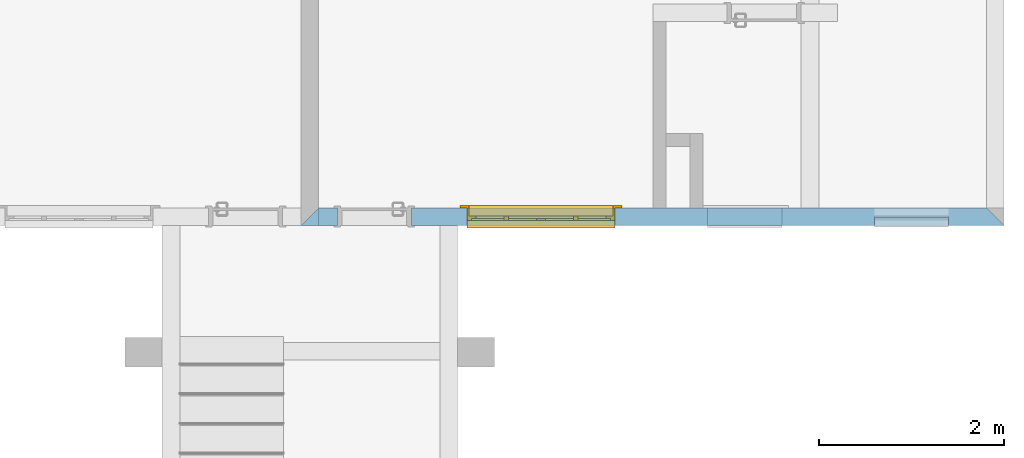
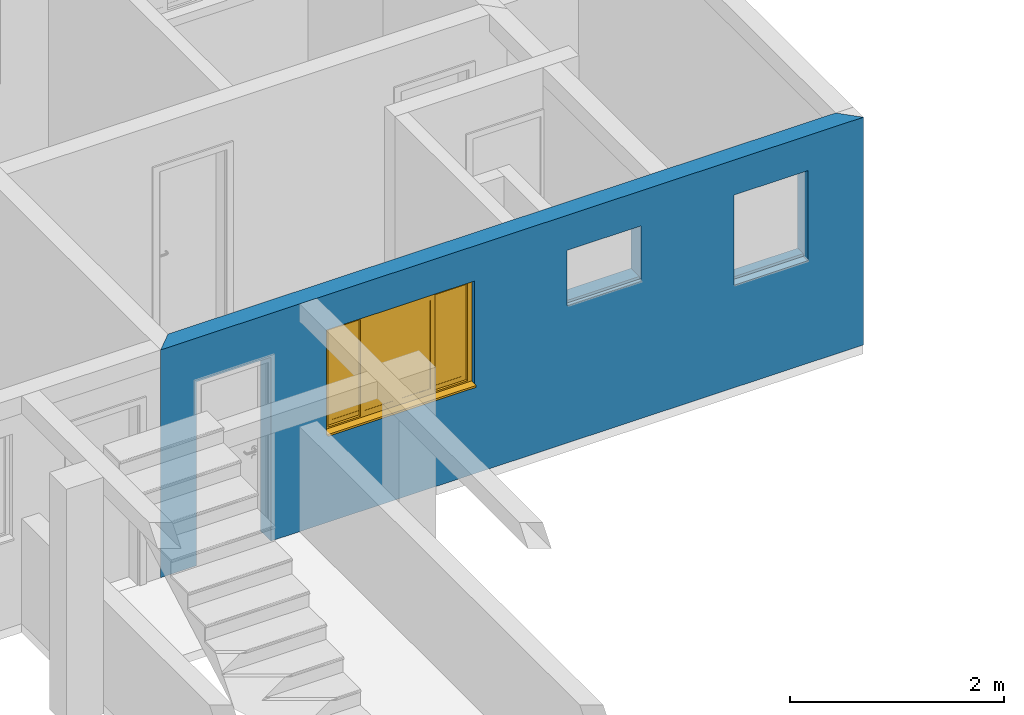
# One storey, part 29 of 47: 1 wall, 1 window, 4 openings.
"""IFC2X3 building model written with IfcOpenShell, lengths in millimetres."""

from ifc_helpers import new_model, entity, si_unit, converted_unit, derived_unit, money_unit, direction, frame, origin_with_axes, origin_2d_with_axis, place, context, subcontext, project, spatial, polyline, rectangle, outline, extrude, open_shell, faceted_brep, surface_model, source, transform, mapped, material, layer, layer_set, layer_usage, type_object, element, fill, save


model = new_model("IFC2X3")

# Units and contexts
model_context = context("Model", 3, precision=0.01, world=origin_with_axes(), true_north=direction((0.0, 1.0)))
body_context = subcontext(model_context, "Body", "Model", "MODEL_VIEW")
ifc_project = project(units=[si_unit("LENGTHUNIT", "METRE", prefix="MILLI"), si_unit("AREAUNIT", "SQUARE_METRE"), si_unit("VOLUMEUNIT", "CUBIC_METRE"), converted_unit("PLANEANGLEUNIT", "DEGREE", entity("IfcPlaneAngleMeasure", 0.0174532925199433), si_unit("PLANEANGLEUNIT", "RADIAN"), dimensions=[0, 0, 0, 0, 0, 0, 0]), money_unit("USD"), converted_unit("TIMEUNIT", "Year", entity("IfcTimeMeasure", 31557600.0), si_unit("TIMEUNIT", "SECOND"), dimensions=[0, 0, 1, 0, 0, 0, 0]), si_unit("MASSUNIT", "GRAM", prefix="KILO"), si_unit("THERMODYNAMICTEMPERATUREUNIT", "DEGREE_CELSIUS"), si_unit("LUMINOUSINTENSITYUNIT", "LUMEN"), si_unit("ENERGYUNIT", "JOULE", prefix="MEGA"), derived_unit("THERMALCONDUCTANCEUNIT", [(si_unit("POWERUNIT", "WATT"), 1), (si_unit("LENGTHUNIT", "METRE"), -1), (si_unit("THERMODYNAMICTEMPERATUREUNIT", "KELVIN"), -1)]), derived_unit("SPECIFICHEATCAPACITYUNIT", [(si_unit("ENERGYUNIT", "JOULE"), 1), (si_unit("MASSUNIT", "GRAM", prefix="KILO"), -1), (si_unit("THERMODYNAMICTEMPERATUREUNIT", "KELVIN"), -1)]), derived_unit("MASSDENSITYUNIT", [(si_unit("MASSUNIT", "GRAM", prefix="KILO"), 1), (si_unit("VOLUMEUNIT", "CUBIC_METRE"), -1)])], contexts=[model_context])

# Site, building, storey
site_placement = place(None, origin_with_axes())
site = spatial("IfcSite", under=ifc_project, at=site_placement, Name="Local", CompositionType="ELEMENT")
building_placement = place(site_placement, origin_with_axes())
building = spatial("IfcBuilding", under=site, at=building_placement, Name="Construção", CompositionType="ELEMENT")
storey_placement = place(building_placement, origin_with_axes())
storey = spatial("IfcBuildingStorey", under=building, at=storey_placement, Name="Pavimento Tipo", CompositionType="ELEMENT", Elevation=0.0)

# Wall, openings, window
ifc_material = material(Name="Concreto - Estrutural")
ifc_layer = layer(ifc_material, 190.0, ventilated="UNKNOWN")
ifc_layer_set = layer_set([ifc_layer], Name="Concreto - Estrutural 190")
ifc_layer_usage = layer_usage(ifc_layer_set, "AXIS2", "NEGATIVE", 190.0)
wall_type = type_object("IfcWallType", Name="Concreto - Estrutural 190", PredefinedType="NOTDEFINED")
wall_placement = place(storey_placement, frame((1042.56699750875, 12396.98141771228, 0.0), z_axis=(0.0, 0.0, 1.0), x_axis=(1.0, 0.0, 0.0)))
wall = element("IfcWallStandardCase", 1, at=wall_placement, inside=storey, type_object=wall_type, material=ifc_layer_usage, Name="Apartamento 1 - Parede-003", context=body_context, shape_type="SweptSolid", body=[
    extrude(outline(polyline([(-190.0000000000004, 0.0), (7399.999999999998, 0.0), (7209.999999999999, 189.9999999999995), (0.0, 189.9999999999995), (-190.0000000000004, 0.0)])), origin_with_axes(), (0.0, 0.0, 1.0), 2600.0),
])
opening_1_placement = place(wall_placement, frame((2400.0, 0.0, 1000.0), z_axis=(0.0, 0.0, 1.0), x_axis=(1.0, 0.0, 0.0)))
opening_1 = element("IfcOpeningElement", 2, at=opening_1_placement, cuts=wall, Name="Apartamento 1 - J01", context=body_context, shape_type="SweptSolid", body=[
    extrude(rectangle(XDim=1599.999999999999, YDim=1200.0, at=origin_2d_with_axis()), frame((0.0, 50.00000000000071, 600.0000000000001), z_axis=(0.0, 1.0, 0.0), x_axis=(1.0, 0.0, 0.0)), (0.0, 0.0, 1.0), 330.0),
    extrude(rectangle(XDim=1599.999999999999, YDim=1200.0, at=origin_2d_with_axis()), frame((0.0, 50.00000000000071, 600.0000000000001), z_axis=(0.0, -1.0, 0.0), x_axis=(1.0, 0.0, 0.0)), (0.0, 0.0, 1.0), 240.0),
    extrude(rectangle(XDim=1750.0, YDim=1350.0, at=origin_2d_with_axis()), frame((0.0, 190.0000000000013, 600.0000000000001), z_axis=(0.0, 1.0, 0.0), x_axis=(1.0, 0.0, 0.0)), (0.0, 0.0, 1.0), 240.0),
])
opening_2_placement = place(wall_placement, frame((4600.0, 0.0, 1600.0), z_axis=(0.0, 0.0, 1.0), x_axis=(1.0, 0.0, 0.0)))
element("IfcOpeningElement", 3, at=opening_2_placement, cuts=wall, Name="Apartamento 1 - J02", context=body_context, shape_type="SweptSolid", body=[
    extrude(rectangle(XDim=800.0000000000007, YDim=600.0000000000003, at=origin_2d_with_axis()), frame((0.0, 189.9999999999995, 300.0000000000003), z_axis=(0.0, -1.0, 0.0), x_axis=(-1.0, 0.0, 0.0)), (0.0, 0.0, 1.0), 570.0000000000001),
    extrude(rectangle(XDim=800.0000000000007, YDim=30.00000000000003, at=origin_2d_with_axis()), frame((0.0, 35.00000000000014, -15.00000000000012), z_axis=(0.0, 1.0, 0.0), x_axis=(-1.0, 0.0, 0.0)), (0.0, 0.0, -1.0), 225.0),
    extrude(rectangle(XDim=949.9999999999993, YDim=750.0000000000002, at=origin_2d_with_axis()), frame((0.0, 189.9999999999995, 300.0000000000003), z_axis=(0.0, -1.0, 0.0), x_axis=(-1.0, 0.0, 0.0)), (0.0, 0.0, -1.0), 190.0),
])
opening_3_placement = place(wall_placement, frame((6399.999999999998, 0.0, 1200.0), z_axis=(0.0, 0.0, 1.0), x_axis=(1.0, 0.0, 0.0)))
element("IfcOpeningElement", 4, at=opening_3_placement, cuts=wall, Name="Apartamento 1 - J03", context=body_context, shape_type="SweptSolid", body=[
    extrude(rectangle(XDim=800.0000000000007, YDim=1000.0, at=origin_2d_with_axis()), frame((0.0, 50.00000000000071, 500.0), z_axis=(0.0, -1.0, 0.0), x_axis=(-1.0, 0.0, 0.0)), (0.0, 0.0, -1.0), 330.0),
    extrude(rectangle(XDim=800.0000000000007, YDim=1000.0, at=origin_2d_with_axis()), frame((0.0, 50.00000000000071, 500.0), z_axis=(0.0, 1.0, 0.0), x_axis=(-1.0, 0.0, 0.0)), (0.0, 0.0, -1.0), 240.0),
    extrude(rectangle(XDim=800.0000000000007, YDim=30.00000000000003, at=origin_2d_with_axis()), frame((0.0, 85.00000000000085, -15.00000000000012), z_axis=(0.0, 1.0, 0.0), x_axis=(-1.0, 0.0, 0.0)), (0.0, 0.0, -1.0), 225.0),
])
opening_4_placement = place(wall_placement, frame((600.0000000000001, 0.0, 0.0), z_axis=(0.0, 0.0, 1.0), x_axis=(1.0, 0.0, 0.0)))
element("IfcOpeningElement", 5, at=opening_4_placement, cuts=wall, Name="Apartamento 1 - P01", context=body_context, shape_type="SweptSolid", body=[
    extrude(rectangle(XDim=799.9999999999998, YDim=2100.0, at=origin_2d_with_axis()), frame((0.0, 189.9999999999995, 1050.0), z_axis=(0.0, 1.0, 0.0), x_axis=(-1.0, 0.0, 0.0)), (0.0, 0.0, -1.0), 570.0000000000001),
    extrude(rectangle(XDim=870.0000000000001, YDim=2135.0, at=origin_2d_with_axis()), frame((0.0, 189.9999999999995, 1067.5), z_axis=(0.0, 1.0, 0.0), x_axis=(-1.0, 0.0, 0.0)), (0.0, 0.0, 1.0), 190.0),
    extrude(rectangle(XDim=870.0000000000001, YDim=2135.0, at=origin_2d_with_axis()), frame((0.0, 0.0, 1067.5), z_axis=(0.0, -1.0, 0.0), x_axis=(-1.0, 0.0, 0.0)), (0.0, 0.0, 1.0), 190.0),
])
window_style = type_object("IfcWindowStyle", Name="Janela de Correr 4-Folhas 27", ConstructionType="NOTDEFINED", OperationType="USERDEFINED", ParameterTakesPrecedence=False, Sizeable=False)
shared_shape = source(origin_with_axes(), body_context, "Body", "SurfaceModel", [
    faceted_brep([(800.0, 0.0, 5.0), (800.0, 50.0, 5.000000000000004), (800.0, 50.0, 27.37961103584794), (800.0, 0.0, 30.0), (-800.0, 0.0, 5.0), (-800.0, 50.0, 5.000000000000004), (-800.0, 80.0, 5.000000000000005), (800.0, 80.0, 5.000000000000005), (800.0, 80.0, 25.8073776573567), (-800.0, 80.0, 25.8073776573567), (-800.0, 50.0, 27.37961103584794), (-800.0, 0.0, 30.0)], [[[0, 1, 2, 3]], [[0, 4, 5, 6, 7, 1]], [[1, 7, 8, 2]], [[3, 2, 8, 9, 10, 11]], [[4, 0, 3, 11]], [[5, 4, 11, 10]], [[6, 5, 10, 9]], [[7, 6, 9, 8]]]),
    faceted_brep([(800.0, 0.0, 0.0), (800.0, 50.0, 0.0), (800.0, 50.0, 5.0), (800.0, 0.0, 5.0), (-800.0, 0.0, 0.0), (-800.0, 50.0, 0.0), (-800.0, 50.0, 5.0), (-800.0, 0.0, 5.0)], [[[0, 1, 2, 3]], [[0, 4, 5, 1]], [[1, 5, 6, 2]], [[3, 2, 6, 7]], [[4, 0, 3, 7]], [[5, 4, 7, 6]]]),
    faceted_brep([(800.0, -50.0, 0.0), (800.0, -140.0, 0.0), (-800.0, -140.0, 0.0), (-800.0, -50.0, 0.0), (800.0, -50.00000000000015, 1200.0), (800.0, -140.0000000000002, 1200.0), (-800.0, -140.0000000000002, 1200.0), (775.0, -140.0, 24.99999999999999), (-775.0, -140.0, 24.99999999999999), (-775.0, -140.0000000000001, 1175.0), (775.0, -140.0000000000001, 1175.0), (-800.0, -50.00000000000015, 1200.0), (775.0, -50.0, 24.99999999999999), (775.0, -50.00000000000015, 1175.0), (-775.0, -50.00000000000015, 1175.0), (-775.0, -50.0, 24.99999999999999)], [[[0, 1, 2, 3]], [[4, 5, 1, 0]], [[1, 5, 6, 2], [7, 8, 9, 10]], [[3, 2, 6, 11]], [[0, 3, 11, 4], [12, 13, 14, 15]], [[11, 6, 5, 4]], [[15, 8, 7, 12]], [[14, 9, 8, 15]], [[13, 10, 9, 14]], [[12, 7, 10, 13]]]),
    faceted_brep([(875.0, -165.0, -75.00000000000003), (775.0, -165.0, 24.99999999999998), (775.0, -140.0, 24.99999999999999), (875.0, -140.0, -75.00000000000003), (875.0, -165.0000000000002, 1275.0), (775.0, -165.0000000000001, 1175.0), (775.0, -140.0000000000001, 1175.0), (875.0, -140.0000000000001, 1275.0)], [[[0, 1, 2, 3]], [[0, 4, 5, 1]], [[1, 5, 6, 2]], [[3, 2, 6, 7]], [[4, 0, 3, 7]], [[5, 4, 7, 6]]]),
    faceted_brep([(-875.0, -165.0000000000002, 1275.0), (-775.0, -165.0000000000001, 1175.0), (-775.0, -140.0000000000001, 1175.0), (-875.0, -140.0000000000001, 1275.0), (-875.0, -165.0, -75.00000000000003), (-775.0, -165.0, 24.99999999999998), (-775.0, -140.0, 24.99999999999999), (-875.0, -140.0, -75.00000000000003)], [[[0, 1, 2, 3]], [[0, 4, 5, 1]], [[1, 5, 6, 2]], [[3, 2, 6, 7]], [[4, 0, 3, 7]], [[5, 4, 7, 6]]]),
    faceted_brep([(-875.0, -165.0, -75.00000000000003), (-775.0, -165.0, 24.99999999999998), (-775.0, -140.0, 24.99999999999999), (-875.0, -140.0, -75.00000000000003), (875.0, -165.0, -75.00000000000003), (775.0, -165.0, 24.99999999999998), (775.0, -140.0, 24.99999999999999), (875.0, -140.0, -75.00000000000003)], [[[0, 1, 2, 3]], [[0, 4, 5, 1]], [[1, 5, 6, 2]], [[3, 2, 6, 7]], [[4, 0, 3, 7]], [[5, 4, 7, 6]]]),
    faceted_brep([(875.0, -165.0000000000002, 1275.0), (775.0, -165.0000000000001, 1175.0), (775.0, -140.0000000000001, 1175.0), (875.0, -140.0000000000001, 1275.0), (-875.0, -165.0000000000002, 1275.0), (-775.0, -165.0000000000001, 1175.0), (-775.0, -140.0000000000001, 1175.0), (-875.0, -140.0000000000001, 1275.0)], [[[0, 1, 2, 3]], [[0, 4, 5, 1]], [[1, 5, 6, 2]], [[3, 2, 6, 7]], [[4, 0, 3, 7]], [[5, 4, 7, 6]]]),
    faceted_brep([(753.0, -50.00000000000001, 47.0), (753.0, -50.00000000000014, 1153.0), (753.0, 0.0, 1153.0), (753.0, 0.0, 47.00000000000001), (800.0, -50.00000000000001, 47.0), (800.0, -50.00000000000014, 1153.0), (800.0, 0.0, 1153.0), (800.0, 0.0, 47.00000000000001)], [[[0, 1, 2, 3]], [[0, 4, 5, 1]], [[1, 5, 6, 2]], [[3, 2, 6, 7]], [[4, 0, 3, 7]], [[5, 4, 7, 6]]]),
    faceted_brep([(-800.0, -50.00000000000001, 47.0), (-800.0, -50.00000000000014, 1153.0), (-800.0, 0.0, 1153.0), (-800.0, 0.0, 47.00000000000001), (-753.0, -50.00000000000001, 47.0), (-753.0, -50.00000000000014, 1153.0), (-753.0, 0.0, 1153.0), (-753.0, 0.0, 47.00000000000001)], [[[0, 1, 2, 3]], [[0, 4, 5, 1]], [[1, 5, 6, 2]], [[3, 2, 6, 7]], [[4, 0, 3, 7]], [[5, 4, 7, 6]]]),
    faceted_brep([(-800.0, -50.00000000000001, 47.0), (-753.0, -50.00000000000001, 47.0), (-753.0, 0.0, 47.00000000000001), (-800.0, 0.0, 47.00000000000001), (-800.0, -50.0, 0.0), (800.0, -50.0, 0.0), (800.0, -50.00000000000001, 47.0), (753.0, -50.00000000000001, 47.0), (753.0, 0.0, 47.00000000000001), (800.0, 0.0, 47.00000000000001), (800.0, 0.0, 0.0), (-800.0, 0.0, 0.0)], [[[0, 1, 2, 3]], [[0, 4, 5, 6, 7, 1]], [[1, 7, 8, 2]], [[3, 2, 8, 9, 10, 11]], [[4, 0, 3, 11]], [[5, 4, 11, 10]], [[6, 5, 10, 9]], [[7, 6, 9, 8]]]),
    faceted_brep([(-800.0, -50.00000000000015, 1200.0), (800.0, -50.00000000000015, 1200.0), (800.0, 0.0, 1200.0), (-800.0, 0.0, 1200.0), (-800.0, -50.00000000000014, 1153.0), (-753.0, -50.00000000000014, 1153.0), (-376.5000000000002, -50.00000000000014, 1153.0), (0.0, -50.00000000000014, 1153.0), (376.4999999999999, -50.00000000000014, 1153.0), (753.0, -50.00000000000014, 1153.0), (800.0, -50.00000000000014, 1153.0), (800.0, 0.0, 1153.0), (753.0, 0.0, 1153.0), (376.4999999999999, 0.0, 1153.0), (0.0, 0.0, 1153.0), (-376.5000000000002, 0.0, 1153.0), (-753.0, 0.0, 1153.0), (-800.0, 0.0, 1153.0)], [[[0, 1, 2, 3]], [[0, 4, 5, 6, 7, 8, 9, 10, 1]], [[1, 10, 11, 2]], [[3, 2, 11, 12, 13, 14, 15, 16, 17]], [[4, 0, 3, 17]], [[5, 4, 17, 16]], [[6, 5, 16, 15]], [[7, 6, 15, 14]], [[8, 7, 14, 13]], [[9, 8, 13, 12]], [[10, 9, 12, 11]]]),
    faceted_brep([(703.0, -50.00000000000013, 1103.0), (752.9999999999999, -50.00000000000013, 1103.0), (752.9999999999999, -25.00000000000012, 1103.0), (703.0, -25.00000000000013, 1103.0), (703.0, -50.00000000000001, 97.0), (752.9999999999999, -50.0, 97.0), (752.9999999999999, -25.0, 97.0), (703.0, -25.0, 97.0)], [[[0, 1, 2, 3]], [[0, 4, 5, 1]], [[1, 5, 6, 2]], [[3, 2, 6, 7]], [[4, 0, 3, 7]], [[5, 4, 7, 6]]]),
    faceted_brep([(401.4999999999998, -50.00000000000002, 97.0), (351.4999999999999, -50.00000000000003, 97.0), (351.4999999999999, -25.00000000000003, 97.0), (401.4999999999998, -25.00000000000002, 97.0), (401.4999999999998, -50.00000000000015, 1103.0), (351.4999999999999, -50.00000000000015, 1103.0), (351.4999999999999, -25.00000000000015, 1103.0), (401.4999999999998, -25.00000000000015, 1103.0)], [[[0, 1, 2, 3]], [[0, 4, 5, 1]], [[1, 5, 6, 2]], [[3, 2, 6, 7]], [[4, 0, 3, 7]], [[5, 4, 7, 6]]]),
    faceted_brep([(351.4999999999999, -50.00000000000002, 47.0), (351.4999999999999, -50.00000000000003, 97.0), (351.4999999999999, -25.00000000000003, 97.0), (351.4999999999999, -25.00000000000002, 47.0), (752.9999999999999, -49.99999999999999, 47.0), (752.9999999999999, -50.0, 97.0), (703.0, -50.00000000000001, 97.0), (401.4999999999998, -50.00000000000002, 97.0), (401.4999999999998, -25.00000000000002, 97.0), (703.0, -25.0, 97.0), (752.9999999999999, -25.0, 97.0), (752.9999999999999, -24.99999999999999, 47.0)], [[[0, 1, 2, 3]], [[0, 4, 5, 6, 7, 1]], [[1, 7, 8, 2]], [[3, 2, 8, 9, 10, 11]], [[4, 0, 3, 11]], [[5, 4, 11, 10]], [[6, 5, 10, 9]], [[7, 6, 9, 8]]]),
    faceted_brep([(752.9999999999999, -50.00000000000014, 1153.0), (752.9999999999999, -50.00000000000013, 1103.0), (752.9999999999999, -25.00000000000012, 1103.0), (752.9999999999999, -25.00000000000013, 1153.0), (351.4999999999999, -50.00000000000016, 1153.0), (351.4999999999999, -50.00000000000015, 1103.0), (401.4999999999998, -50.00000000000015, 1103.0), (703.0, -50.00000000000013, 1103.0), (703.0, -25.00000000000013, 1103.0), (401.4999999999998, -25.00000000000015, 1103.0), (351.4999999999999, -25.00000000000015, 1103.0), (351.4999999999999, -25.00000000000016, 1153.0)], [[[0, 1, 2, 3]], [[0, 4, 5, 6, 7, 1]], [[1, 7, 8, 2]], [[3, 2, 8, 9, 10, 11]], [[4, 0, 3, 11]], [[5, 4, 11, 10]], [[6, 5, 10, 9]], [[7, 6, 9, 8]]]),
    surface_model("IfcShellBasedSurfaceModel", [(703.0, -47.50000000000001, 97.0), (703.0, -47.50000000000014, 1103.0), (401.4999999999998, -47.50000000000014, 1103.0), (401.4999999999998, -47.50000000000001, 97.0)], [open_shell([[[0, 1, 2, 3]]])]),
    surface_model("IfcShellBasedSurfaceModel", [(703.0, -27.50000000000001, 97.0), (401.4999999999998, -27.50000000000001, 97.0), (401.4999999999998, -27.50000000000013, 1103.0), (703.0, -27.50000000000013, 1103.0)], [open_shell([[[0, 1, 2, 3]]])]),
    faceted_brep([(351.4999999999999, -25.00000000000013, 1103.0), (401.4999999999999, -25.00000000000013, 1103.0), (401.4999999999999, 0.0, 1103.0), (351.4999999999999, 0.0, 1103.0), (351.4999999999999, -25.0, 97.0), (401.4999999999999, -25.0, 97.0), (401.4999999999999, 0.0, 97.0), (351.4999999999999, 0.0, 97.0)], [[[0, 1, 2, 3]], [[0, 4, 5, 1]], [[1, 5, 6, 2]], [[3, 2, 6, 7]], [[4, 0, 3, 7]], [[5, 4, 7, 6]]]),
    faceted_brep([(49.99999999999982, -25.00000000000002, 97.0), (0.0, -25.00000000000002, 97.0), (0.0, 0.0, 97.0), (49.99999999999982, 0.0, 97.0), (49.99999999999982, -25.00000000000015, 1103.0), (0.0, -25.00000000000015, 1103.0), (0.0, 0.0, 1103.0), (49.99999999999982, 0.0, 1103.0)], [[[0, 1, 2, 3]], [[0, 4, 5, 1]], [[1, 5, 6, 2]], [[3, 2, 6, 7]], [[4, 0, 3, 7]], [[5, 4, 7, 6]]]),
    faceted_brep([(0.0, -25.00000000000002, 47.0), (0.0, -25.00000000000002, 97.0), (0.0, 0.0, 97.0), (0.0, 0.0, 47.0), (401.4999999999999, -24.99999999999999, 47.0), (401.4999999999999, -25.0, 97.0), (351.4999999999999, -25.0, 97.0), (49.99999999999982, -25.00000000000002, 97.0), (49.99999999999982, 0.0, 97.0), (351.4999999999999, 0.0, 97.0), (401.4999999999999, 0.0, 97.0), (401.4999999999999, 0.0, 47.0)], [[[0, 1, 2, 3]], [[0, 4, 5, 6, 7, 1]], [[1, 7, 8, 2]], [[3, 2, 8, 9, 10, 11]], [[4, 0, 3, 11]], [[5, 4, 11, 10]], [[6, 5, 10, 9]], [[7, 6, 9, 8]]]),
    faceted_brep([(401.4999999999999, -25.00000000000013, 1153.0), (401.4999999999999, -25.00000000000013, 1103.0), (401.4999999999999, 0.0, 1103.0), (401.4999999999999, 0.0, 1153.0), (0.0, -25.00000000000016, 1153.0), (0.0, -25.00000000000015, 1103.0), (49.99999999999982, -25.00000000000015, 1103.0), (351.4999999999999, -25.00000000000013, 1103.0), (351.4999999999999, 0.0, 1103.0), (49.99999999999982, 0.0, 1103.0), (0.0, 0.0, 1103.0), (0.0, 0.0, 1153.0)], [[[0, 1, 2, 3]], [[0, 4, 5, 6, 7, 1]], [[1, 7, 8, 2]], [[3, 2, 8, 9, 10, 11]], [[4, 0, 3, 11]], [[5, 4, 11, 10]], [[6, 5, 10, 9]], [[7, 6, 9, 8]]]),
    surface_model("IfcShellBasedSurfaceModel", [(351.4999999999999, -22.50000000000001, 97.0), (351.4999999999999, -22.50000000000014, 1103.0), (49.99999999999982, -22.50000000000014, 1103.0), (49.99999999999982, -22.50000000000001, 97.0)], [open_shell([[[0, 1, 2, 3]]])]),
    surface_model("IfcShellBasedSurfaceModel", [(351.4999999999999, -2.500000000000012, 97.0), (49.99999999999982, -2.500000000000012, 97.0), (49.99999999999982, -2.500000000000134, 1103.0), (351.4999999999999, -2.500000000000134, 1103.0)], [open_shell([[[0, 1, 2, 3]]])]),
    faceted_brep([(-50.00000000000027, -25.00000000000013, 1103.0), (0.0, -25.00000000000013, 1103.0), (0.0, 0.0, 1103.0), (-50.00000000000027, 0.0, 1103.0), (-50.00000000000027, -25.0, 97.0), (0.0, -25.0, 97.0), (0.0, 0.0, 97.0), (-50.00000000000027, 0.0, 97.0)], [[[0, 1, 2, 3]], [[0, 4, 5, 1]], [[1, 5, 6, 2]], [[3, 2, 6, 7]], [[4, 0, 3, 7]], [[5, 4, 7, 6]]]),
    faceted_brep([(-351.5000000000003, -25.00000000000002, 97.0), (-401.5000000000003, -25.00000000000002, 97.0), (-401.5000000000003, 0.0, 97.0), (-351.5000000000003, 0.0, 97.0), (-351.5000000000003, -25.00000000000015, 1103.0), (-401.5000000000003, -25.00000000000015, 1103.0), (-401.5000000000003, 0.0, 1103.0), (-351.5000000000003, 0.0, 1103.0)], [[[0, 1, 2, 3]], [[0, 4, 5, 1]], [[1, 5, 6, 2]], [[3, 2, 6, 7]], [[4, 0, 3, 7]], [[5, 4, 7, 6]]]),
    faceted_brep([(-401.5000000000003, -25.00000000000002, 47.0), (-401.5000000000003, -25.00000000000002, 97.0), (-401.5000000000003, 0.0, 97.0), (-401.5000000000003, 0.0, 47.0), (0.0, -24.99999999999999, 47.0), (0.0, -25.0, 97.0), (-50.00000000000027, -25.0, 97.0), (-351.5000000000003, -25.00000000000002, 97.0), (-351.5000000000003, 0.0, 97.0), (-50.00000000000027, 0.0, 97.0), (0.0, 0.0, 97.0), (0.0, 0.0, 47.0)], [[[0, 1, 2, 3]], [[0, 4, 5, 6, 7, 1]], [[1, 7, 8, 2]], [[3, 2, 8, 9, 10, 11]], [[4, 0, 3, 11]], [[5, 4, 11, 10]], [[6, 5, 10, 9]], [[7, 6, 9, 8]]]),
    faceted_brep([(0.0, -25.00000000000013, 1153.0), (0.0, -25.00000000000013, 1103.0), (0.0, 0.0, 1103.0), (0.0, 0.0, 1153.0), (-401.5000000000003, -25.00000000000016, 1153.0), (-401.5000000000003, -25.00000000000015, 1103.0), (-351.5000000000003, -25.00000000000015, 1103.0), (-50.00000000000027, -25.00000000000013, 1103.0), (-50.00000000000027, 0.0, 1103.0), (-351.5000000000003, 0.0, 1103.0), (-401.5000000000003, 0.0, 1103.0), (-401.5000000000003, 0.0, 1153.0)], [[[0, 1, 2, 3]], [[0, 4, 5, 6, 7, 1]], [[1, 7, 8, 2]], [[3, 2, 8, 9, 10, 11]], [[4, 0, 3, 11]], [[5, 4, 11, 10]], [[6, 5, 10, 9]], [[7, 6, 9, 8]]]),
    surface_model("IfcShellBasedSurfaceModel", [(-50.00000000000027, -22.50000000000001, 97.0), (-50.00000000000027, -22.50000000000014, 1103.0), (-351.5000000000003, -22.50000000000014, 1103.0), (-351.5000000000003, -22.50000000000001, 97.0)], [open_shell([[[0, 1, 2, 3]]])]),
    surface_model("IfcShellBasedSurfaceModel", [(-50.00000000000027, -2.500000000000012, 97.0), (-351.5000000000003, -2.500000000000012, 97.0), (-351.5000000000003, -2.500000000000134, 1103.0), (-50.00000000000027, -2.500000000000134, 1103.0)], [open_shell([[[0, 1, 2, 3]]])]),
    faceted_brep([(-401.5000000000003, -50.00000000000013, 1103.0), (-351.5000000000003, -50.00000000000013, 1103.0), (-351.5000000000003, -25.00000000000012, 1103.0), (-401.5000000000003, -25.00000000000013, 1103.0), (-401.5000000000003, -50.00000000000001, 97.0), (-351.5000000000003, -50.0, 97.0), (-351.5000000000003, -25.0, 97.0), (-401.5000000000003, -25.0, 97.0)], [[[0, 1, 2, 3]], [[0, 4, 5, 1]], [[1, 5, 6, 2]], [[3, 2, 6, 7]], [[4, 0, 3, 7]], [[5, 4, 7, 6]]]),
    faceted_brep([(-703.0000000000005, -50.00000000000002, 97.0), (-753.0000000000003, -50.00000000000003, 97.0), (-753.0000000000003, -25.00000000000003, 97.0), (-703.0000000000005, -25.00000000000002, 97.0), (-703.0000000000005, -50.00000000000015, 1103.0), (-753.0000000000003, -50.00000000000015, 1103.0), (-753.0000000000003, -25.00000000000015, 1103.0), (-703.0000000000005, -25.00000000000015, 1103.0)], [[[0, 1, 2, 3]], [[0, 4, 5, 1]], [[1, 5, 6, 2]], [[3, 2, 6, 7]], [[4, 0, 3, 7]], [[5, 4, 7, 6]]]),
    faceted_brep([(-753.0000000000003, -50.00000000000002, 47.0), (-753.0000000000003, -50.00000000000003, 97.0), (-753.0000000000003, -25.00000000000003, 97.0), (-753.0000000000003, -25.00000000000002, 47.0), (-351.5000000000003, -49.99999999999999, 47.0), (-351.5000000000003, -50.0, 97.0), (-401.5000000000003, -50.00000000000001, 97.0), (-703.0000000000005, -50.00000000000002, 97.0), (-703.0000000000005, -25.00000000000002, 97.0), (-401.5000000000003, -25.0, 97.0), (-351.5000000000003, -25.0, 97.0), (-351.5000000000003, -24.99999999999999, 47.0)], [[[0, 1, 2, 3]], [[0, 4, 5, 6, 7, 1]], [[1, 7, 8, 2]], [[3, 2, 8, 9, 10, 11]], [[4, 0, 3, 11]], [[5, 4, 11, 10]], [[6, 5, 10, 9]], [[7, 6, 9, 8]]]),
    faceted_brep([(-351.5000000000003, -50.00000000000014, 1153.0), (-351.5000000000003, -50.00000000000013, 1103.0), (-351.5000000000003, -25.00000000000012, 1103.0), (-351.5000000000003, -25.00000000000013, 1153.0), (-753.0000000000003, -50.00000000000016, 1153.0), (-753.0000000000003, -50.00000000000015, 1103.0), (-703.0000000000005, -50.00000000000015, 1103.0), (-401.5000000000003, -50.00000000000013, 1103.0), (-401.5000000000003, -25.00000000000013, 1103.0), (-703.0000000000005, -25.00000000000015, 1103.0), (-753.0000000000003, -25.00000000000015, 1103.0), (-753.0000000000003, -25.00000000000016, 1153.0)], [[[0, 1, 2, 3]], [[0, 4, 5, 6, 7, 1]], [[1, 7, 8, 2]], [[3, 2, 8, 9, 10, 11]], [[4, 0, 3, 11]], [[5, 4, 11, 10]], [[6, 5, 10, 9]], [[7, 6, 9, 8]]]),
    surface_model("IfcShellBasedSurfaceModel", [(-401.5000000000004, -47.50000000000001, 97.0), (-401.5000000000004, -47.50000000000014, 1103.0), (-703.0000000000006, -47.50000000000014, 1103.0), (-703.0000000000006, -47.50000000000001, 97.0)], [open_shell([[[0, 1, 2, 3]]])]),
    surface_model("IfcShellBasedSurfaceModel", [(-401.5000000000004, -27.50000000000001, 97.0), (-703.0000000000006, -27.50000000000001, 97.0), (-703.0000000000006, -27.50000000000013, 1103.0), (-401.5000000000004, -27.50000000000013, 1103.0)], [open_shell([[[0, 1, 2, 3]]])]),
])
window_placement = place(opening_1_placement, frame((799.9999999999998, 0.0, 0.0), z_axis=(0.0, 0.0, 1.0), x_axis=(-1.0, 0.0, 0.0)))
window = element("IfcWindow", 6, at=window_placement, inside=storey, type_object=window_style, Name="Apartamento 1 - J01", ObjectType="WINDOW", OverallHeight=1200.0, OverallWidth=1600.0, context=body_context, shape_type="MappedRepresentation", body=[
    mapped(shared_shape, transform((799.9999999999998, -50.00000000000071, 0.0))),
])
fill(opening_1, window)

save(model, "model.ifc")
